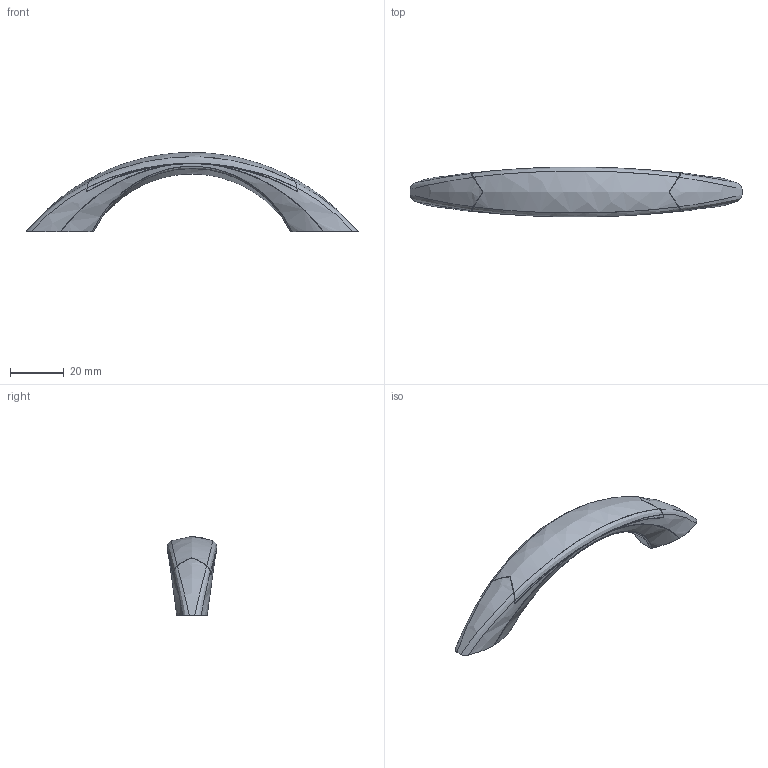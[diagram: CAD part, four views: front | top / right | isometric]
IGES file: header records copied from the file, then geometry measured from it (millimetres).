
Start section: C
Global section: file name: 0043-124.igs; native system: By Siemens PLM Incorporated; preprocessor: XPlus GENERIC/IGES 16.0.42; author: Author; organization: Title; date: 20231212.111126; units: millimetre
Bounding box: 123 x 18.5 x 29.29 mm (x, y, z)
Surface area: 11461.6 mm2 (no closed solid volume)
Topology: 0 solids, 0 shells, 166 faces, 976 edges, 974 vertices
Faces by surface type: bspline 166
